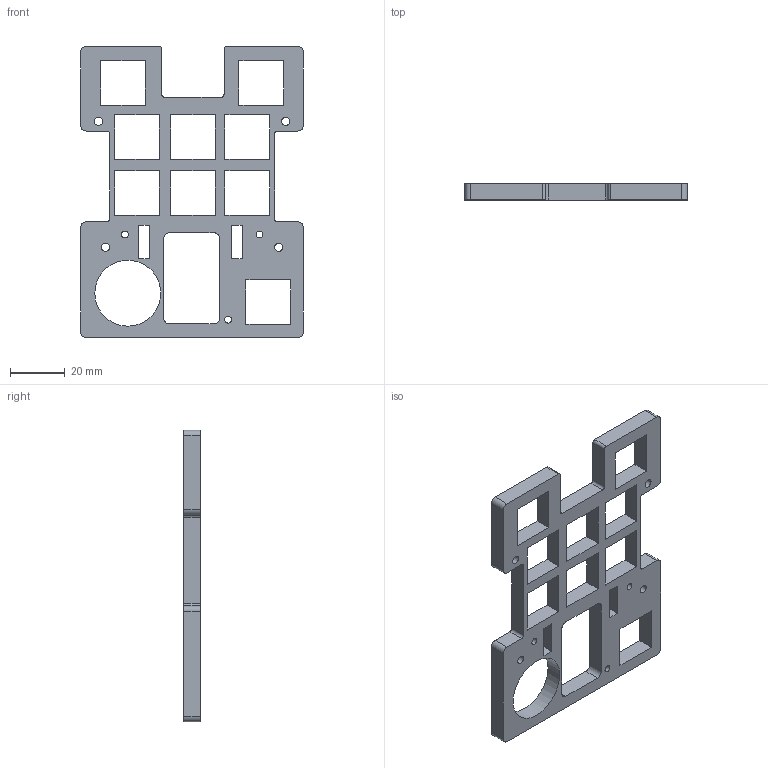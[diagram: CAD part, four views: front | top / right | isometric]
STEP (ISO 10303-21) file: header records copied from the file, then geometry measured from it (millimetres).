
FILE_DESCRIPTION(/* description */ (''),/* implementation_level */ '2;1');
FILE_NAME(/* name */ 'D:/projects/arduino_micro_HID_macro_keyboard/3D CAD files/PCB_Cover_SMD_THT_TOP.step',/* time_stamp */ '2021-09-17T21:12:16+08:00',/* author */ (''),/* organization */ (''),/* preprocessor_version */ 'ST-DEVELOPER v18.1',/* originating_system */ 'Autodesk Translation Framework v10.10.0.1391',/* authorisation */ '');
FILE_SCHEMA (('AUTOMOTIVE_DESIGN { 1 0 10303 214 3 1 1 }'));
Length unit declared in the file: millimetre
Products named in the file (1): PCB_fritzing_PCB_cover_SMD_soldered_at_top
Bounding box: 81 x 6 x 106 mm (x, y, z)
Volume: 23011.5 mm3; surface area: 15661.3 mm2
Topology: 1 solids, 1 shells, 94 faces, 276 edges, 184 vertices
Faces by surface type: plane 66, cylinder 28
Full cylindrical faces by diameter (mm): 2.5 x3, 3 x4, 24 x1
Entity records: 3236 total; most frequent: CARTESIAN_POINT 555, ORIENTED_EDGE 552, DIRECTION 522, EDGE_CURVE 276, LINE 220, VECTOR 220, VERTEX_POINT 184, AXIS2_PLACEMENT_3D 151
